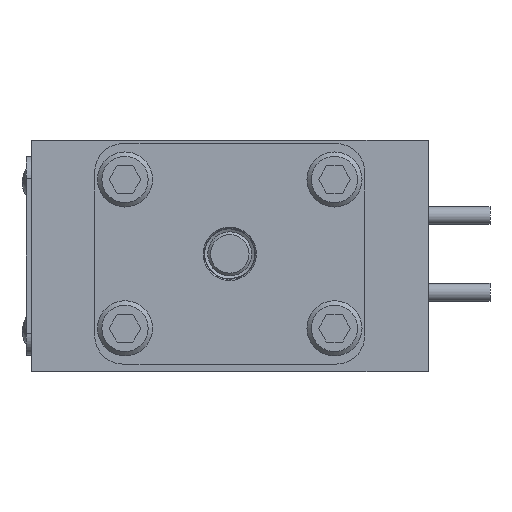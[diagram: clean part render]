
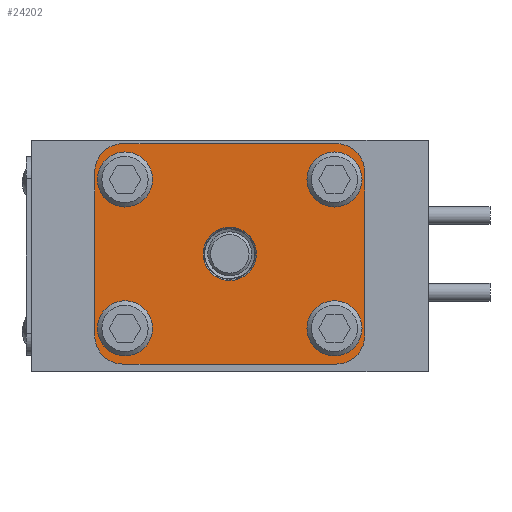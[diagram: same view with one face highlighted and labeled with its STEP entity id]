
A CAD part, left-side view. The second image highlights one B-rep face of the part: STEP entity #24202.
In plain terms, the highlighted planar face has unit normal (-1, 0, 0).
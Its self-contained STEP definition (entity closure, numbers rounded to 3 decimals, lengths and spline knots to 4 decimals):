
#1032=FACE_BOUND('',#4413,.T.);
#1033=FACE_BOUND('',#4414,.T.);
#1034=FACE_BOUND('',#4415,.T.);
#1035=FACE_BOUND('',#4416,.T.);
#1036=FACE_BOUND('',#4417,.T.);
#1598=PLANE('',#26761);
#2857=FACE_OUTER_BOUND('',#4412,.T.);
#4412=EDGE_LOOP('',(#20475,#20476,#20477,#20478,#20479,#20480,#20481,#20482));
#4413=EDGE_LOOP('',(#20483));
#4414=EDGE_LOOP('',(#20484));
#4415=EDGE_LOOP('',(#20485));
#4416=EDGE_LOOP('',(#20486));
#4417=EDGE_LOOP('',(#20487));
#4704=CIRCLE('',#24563,0.3969);
#4707=CIRCLE('',#24576,0.3969);
#5272=CIRCLE('',#25675,0.4064);
#5273=CIRCLE('',#25678,0.4064);
#5274=CIRCLE('',#25681,0.4064);
#5275=CIRCLE('',#25684,0.4064);
#5368=CIRCLE('',#25911,0.3969);
#5371=CIRCLE('',#25924,0.3969);
#5760=CIRCLE('',#26735,0.3835);
#6789=LINE('',#39069,#8383);
#6792=LINE('',#39077,#8386);
#6795=LINE('',#39085,#8389);
#6798=LINE('',#39093,#8392);
#8383=VECTOR('',#30431,1.);
#8386=VECTOR('',#30440,1.);
#8389=VECTOR('',#30449,1.);
#8392=VECTOR('',#30458,1.);
#9249=VERTEX_POINT('',#35296);
#9264=VERTEX_POINT('',#35344);
#10194=VERTEX_POINT('',#39065);
#10195=VERTEX_POINT('',#39067);
#10196=VERTEX_POINT('',#39071);
#10197=VERTEX_POINT('',#39075);
#10198=VERTEX_POINT('',#39079);
#10199=VERTEX_POINT('',#39083);
#10200=VERTEX_POINT('',#39087);
#10201=VERTEX_POINT('',#39091);
#10370=VERTEX_POINT('',#39690);
#10385=VERTEX_POINT('',#39738);
#10991=VERTEX_POINT('',#44024);
#11428=EDGE_CURVE('',#9249,#9249,#4704,.T.);
#11451=EDGE_CURVE('',#9264,#9264,#4707,.T.);
#12867=EDGE_CURVE('',#10195,#10194,#6789,.T.);
#12869=EDGE_CURVE('',#10196,#10195,#5272,.T.);
#12871=EDGE_CURVE('',#10197,#10196,#6792,.T.);
#12873=EDGE_CURVE('',#10198,#10197,#5273,.T.);
#12875=EDGE_CURVE('',#10199,#10198,#6795,.T.);
#12877=EDGE_CURVE('',#10200,#10199,#5274,.T.);
#12879=EDGE_CURVE('',#10201,#10200,#6798,.T.);
#12880=EDGE_CURVE('',#10194,#10201,#5275,.T.);
#13174=EDGE_CURVE('',#10370,#10370,#5368,.T.);
#13197=EDGE_CURVE('',#10385,#10385,#5371,.T.);
#14183=EDGE_CURVE('',#10991,#10991,#5760,.T.);
#20475=ORIENTED_EDGE('',*,*,#12880,.F.);
#20476=ORIENTED_EDGE('',*,*,#12867,.F.);
#20477=ORIENTED_EDGE('',*,*,#12869,.F.);
#20478=ORIENTED_EDGE('',*,*,#12871,.F.);
#20479=ORIENTED_EDGE('',*,*,#12873,.F.);
#20480=ORIENTED_EDGE('',*,*,#12875,.F.);
#20481=ORIENTED_EDGE('',*,*,#12877,.F.);
#20482=ORIENTED_EDGE('',*,*,#12879,.F.);
#20483=ORIENTED_EDGE('',*,*,#13197,.T.);
#20484=ORIENTED_EDGE('',*,*,#13174,.T.);
#20485=ORIENTED_EDGE('',*,*,#11451,.T.);
#20486=ORIENTED_EDGE('',*,*,#11428,.T.);
#20487=ORIENTED_EDGE('',*,*,#14183,.T.);
#24202=ADVANCED_FACE('',(#2857,#1032,#1033,#1034,#1035,#1036),#1598,.T.);
#24563=AXIS2_PLACEMENT_3D('',#35298,#27407,#27408);
#24576=AXIS2_PLACEMENT_3D('',#35346,#27453,#27454);
#25675=AXIS2_PLACEMENT_3D('',#39073,#30435,#30436);
#25678=AXIS2_PLACEMENT_3D('',#39081,#30444,#30445);
#25681=AXIS2_PLACEMENT_3D('',#39089,#30453,#30454);
#25684=AXIS2_PLACEMENT_3D('',#39095,#30461,#30462);
#25911=AXIS2_PLACEMENT_3D('',#39692,#31116,#31117);
#25924=AXIS2_PLACEMENT_3D('',#39740,#31162,#31163);
#26735=AXIS2_PLACEMENT_3D('',#44026,#33165,#33166);
#26761=AXIS2_PLACEMENT_3D('',#44084,#33233,#33234);
#27407=DIRECTION('center_axis',(1.,0.,0.));
#27408=DIRECTION('ref_axis',(0.,0.,
-1.));
#27453=DIRECTION('center_axis',(1.,0.,0.));
#27454=DIRECTION('ref_axis',(0.,0.,-1.));
#30431=DIRECTION('',(0.,1.,0.));
#30435=DIRECTION('center_axis',(1.,0.,0.));
#30436=DIRECTION('ref_axis',(0.,-0.707,-0.707));
#30440=DIRECTION('',(0.,0.,-1.));
#30444=DIRECTION('center_axis',(1.,0.,0.));
#30445=DIRECTION('ref_axis',(0.,-0.707,0.707));
#30449=DIRECTION('',(0.,-1.,0.));
#30453=DIRECTION('center_axis',(1.,0.,0.));
#30454=DIRECTION('ref_axis',(0.,0.707,0.707));
#30458=DIRECTION('',(0.,0.,1.));
#30461=DIRECTION('center_axis',(1.,0.,0.));
#30462=DIRECTION('ref_axis',(0.,0.707,-0.707));
#31116=DIRECTION('center_axis',(1.,0.,0.));
#31117=DIRECTION('ref_axis',(0.,0.,
-1.));
#31162=DIRECTION('center_axis',(1.,0.,0.));
#31163=DIRECTION('ref_axis',(0.,0.,-1.));
#33165=DIRECTION('center_axis',(1.,0.,0.));
#33166=DIRECTION('ref_axis',(0.,-1.,0.));
#33233=DIRECTION('center_axis',(-1.,0.,0.));
#33234=DIRECTION('ref_axis',(0.,-1.,0.));
#35296=CARTESIAN_POINT('',(-5.7252,-1.5088,-0.6445));
#35298=CARTESIAN_POINT('Origin',(-5.7252,-1.5088,-1.0414));
#35344=CARTESIAN_POINT('',(-5.7252,1.5088,-0.6445));
#35346=CARTESIAN_POINT('Origin',(-5.7252,1.5088,-1.0414));
#39065=CARTESIAN_POINT('',(-5.7252,1.538,-1.557));
#39067=CARTESIAN_POINT('',(-5.7252,-1.538,-1.557));
#39069=CARTESIAN_POINT('',(-5.7252,-1.9444,-1.557));
#39071=CARTESIAN_POINT('',(-5.7252,-1.9444,-1.1506));
#39073=CARTESIAN_POINT('Origin',(-5.7252,-1.538,-1.1506));
#39075=CARTESIAN_POINT('',(-5.7252,-1.9444,1.2116));
#39077=CARTESIAN_POINT('',(-5.7252,-1.9444,1.618));
#39079=CARTESIAN_POINT('',(-5.7252,-1.538,1.618));
#39081=CARTESIAN_POINT('Origin',(-5.7252,-1.538,1.2116));
#39083=CARTESIAN_POINT('',(-5.7252,1.538,1.618));
#39085=CARTESIAN_POINT('',(-5.7252,1.9444,1.618));
#39087=CARTESIAN_POINT('',(-5.7252,1.9444,1.2116));
#39089=CARTESIAN_POINT('Origin',(-5.7252,1.538,1.2116));
#39091=CARTESIAN_POINT('',(-5.7252,1.9444,-1.1506));
#39093=CARTESIAN_POINT('',(-5.7252,1.9444,-1.557));
#39095=CARTESIAN_POINT('Origin',(-5.7252,1.538,-1.1506));
#39690=CARTESIAN_POINT('',(-5.7252,1.5088,1.4992));
#39692=CARTESIAN_POINT('Origin',(-5.7252,1.5088,1.1024));
#39738=CARTESIAN_POINT('',(-5.7252,-1.5088,1.4992));
#39740=CARTESIAN_POINT('Origin',(-5.7252,-1.5088,1.1024));
#44024=CARTESIAN_POINT('',(-5.7252,0.3835,0.0305));
#44026=CARTESIAN_POINT('Origin',(-5.7252,0.,0.0305));
#44084=CARTESIAN_POINT('Origin',(-5.7252,0.,0.0305));
